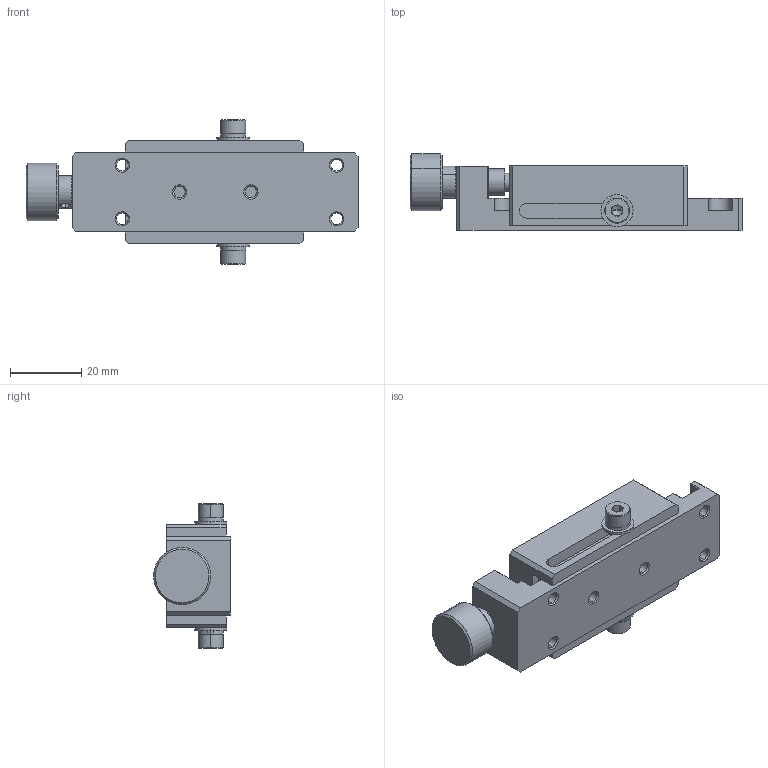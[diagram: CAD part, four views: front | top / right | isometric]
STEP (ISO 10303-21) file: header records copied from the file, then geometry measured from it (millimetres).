
FILE_DESCRIPTION (( 'STEP AP203' ), '1' );
FILE_NAME ('BHL30.STEP', '2024-03-04T02:28:49', ( 'China' ), ( 'Microsoft' ), 'SwSTEP 2.0', 'SolidWorks 2024', '' );
FILE_SCHEMA (( 'CONFIG_CONTROL_DESIGN' ));
Length unit declared in the file: millimetre
Products named in the file (1): BHL30
Bounding box: 93 x 21.5 x 40.6 mm (x, y, z)
Volume: 32895.3 mm3; surface area: 17012.6 mm2
Topology: 10 solids, 10 shells, 295 faces, 700 edges, 427 vertices
Faces by surface type: plane 119, cylinder 101, cone 75
Entity records: 8516 total; most frequent: DIRECTION 1527, CARTESIAN_POINT 1493, ORIENTED_EDGE 1356, EDGE_CURVE 678, AXIS2_PLACEMENT_3D 561, VERTEX_POINT 427, VECTOR 405, LINE 405
